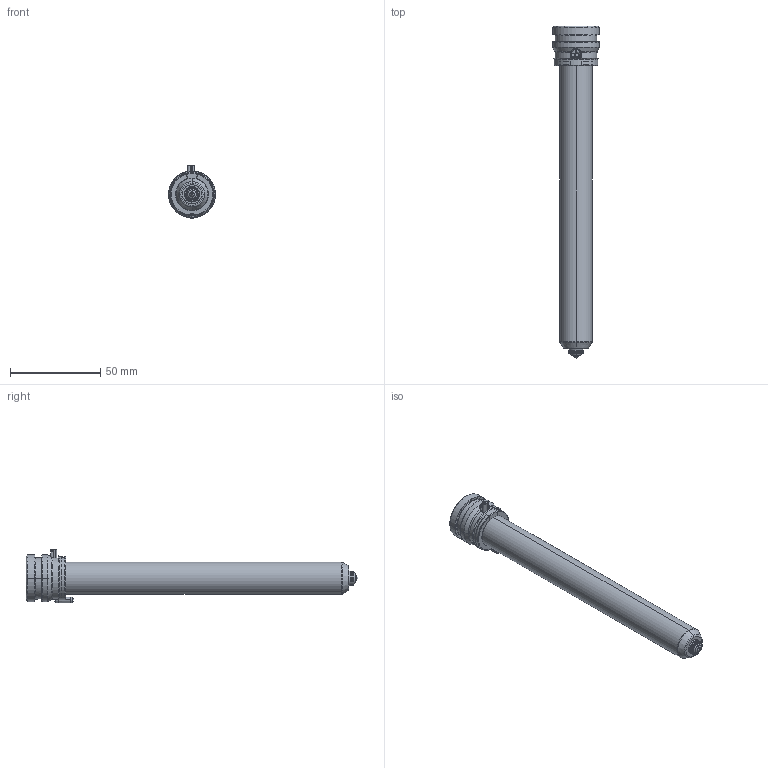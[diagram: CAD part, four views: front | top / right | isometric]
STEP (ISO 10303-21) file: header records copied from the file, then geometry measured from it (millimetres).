
FILE_DESCRIPTION((''),'2;1');
FILE_NAME('TH18166-A-1-PK-JG','2023-12-14T',('umhib'),('Thermoplay S.p.A.'),'PRO/ENGINEER BY PARAMETRIC TECHNOLOGY CORPORATION, 2017170','PRO/ENGINEER BY PARAMETRIC TECHNOLOGY CORPORATION, 2017170','');
FILE_SCHEMA(('CONFIG_CONTROL_DESIGN'));
Length unit declared in the file: millimetre
Products named in the file (1): TH18166-A-1-PK-JG
Bounding box: 26 x 184 x 29.5 mm (x, y, z)
Volume: 36721.5 mm3; surface area: 26668.7 mm2
Topology: 1 solids, 2 shells, 396 faces, 1032 edges, 641 vertices
Faces by surface type: cylinder 151, plane 85, cone 66, torus 56, bspline 24, sphere 12, extrusion 2
Entity records: 18002 total; most frequent: CARTESIAN_POINT 6093, ORIENTED_EDGE 2040, DIRECTION 2021, EDGE_CURVE 1022, AXIS2_PLACEMENT_3D 811, VERTEX_POINT 641, CIRCLE 440, EDGE_LOOP 416
